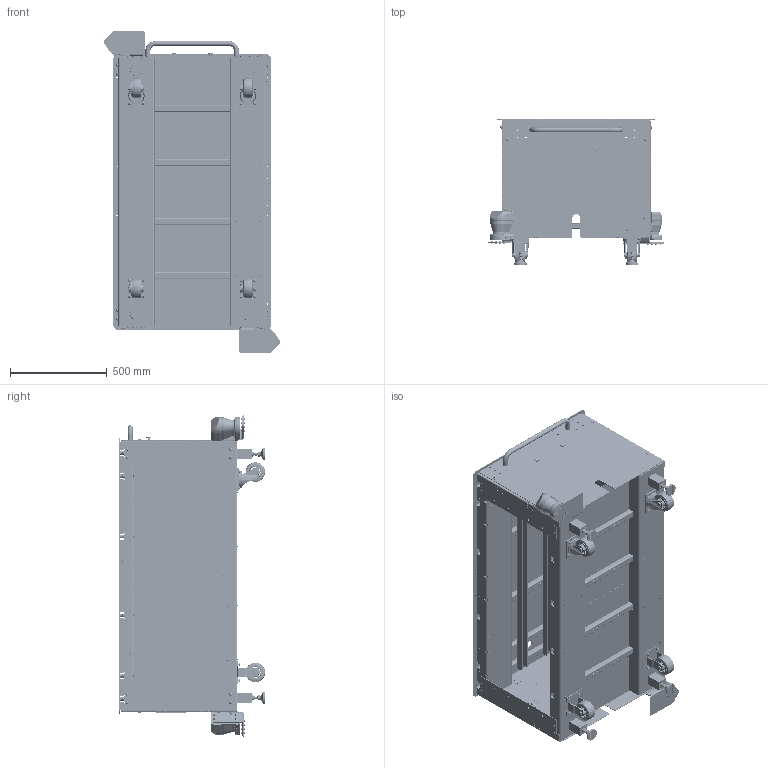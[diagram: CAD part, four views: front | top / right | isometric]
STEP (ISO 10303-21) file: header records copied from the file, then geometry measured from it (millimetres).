
FILE_DESCRIPTION (( 'STEP AP203' ), '1' );
FILE_NAME ('5011597 - SAFETY SCANNER KIT SHOWN WITH VERSACART 1300.STEP', '2024-12-11T18:08:33', ( '' ), ( '' ), 'SwSTEP 2.0', 'SolidWorks 2019', '' );
FILE_SCHEMA (( 'CONFIG_CONTROL_DESIGN' ));
Length unit declared in the file: inch
Products named in the file (48): M8 CAPTIVE NUT_99437A170; 5013671_Default Configuration; 5011677_Default Configuration; 5011678; M8x1.25 HHCS_HHCS M8-1.25x20-C; 5008506_Default Configuration; 5008042_As Machined; 5011674_Default Configuration; M6x1.0 FHCS_FHCS M6x1.0x14-C; 0.25-20 HEX NUT UNC GRD5_0.25-20 HEX NUT-C; 5011681_Default Configuration; 5009491; M5 CAPTIVE NUT_99437A155; 5011527_Default Configuration; M6x1.0 SHCS_SHCS M6-1.0 x 80; M5X0.8 SHCS_SHCS M5-0.8 x 12; 5011622; 5011520_Default Configuration; M6x1.0 SHCS_SHCS M6-1.0 x 12; 5012775_6111K191; 5003936_As Machined; M6x1.0 FHCS_FHCS M6x1.0x18-C; 5011755; 5008043_As Machined; 5012087_Default Configuration; 5013665; 5011665_02 - FOR TOP LEVEL ASSEMBLY - 5012677; M6 CAPTIVE NUT_99437A160; M6 BELLEVILLE WASHER_M6 BELLEVILLE WASHER; M8x1.25 HEX NUT CLASS 8_M8 HEX NUT; 5011621; M6x1.0 FHCS_FHCS M6x1.0x12-C; M6X1.0 BHCS_BHCS M6x1.0 X 16mm; M6x1.0 FHCS_FHCS M6x1.0x16-C; M8x1.25 FHCS_FHCS M8x1.25x16-C; 5011373_Default Configuration; M8X1.25 BHCS_BHCS M8x1.25 X 20mm; 5012677_02a - UR10 - STANDARD VISUAL INFEED - MACHINED PEDESTAL; 5011597 - SAFETY SCANNER KIT SHOWN WITH VERSACART 1300; 5011682_Default Configuration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
Assembly tree (548 placements, depth 4):
  5012087_Default Configuration
  5011597 - SAFETY SCANNER KIT SHOWN WITH VERSACART 1300
    5012677_02a - UR10 - STANDARD VISUAL INFEED - MACHINED PEDESTAL
      5011665_02 - FOR TOP LEVEL ASSEMBLY - 5012677
        5011681_Default Configuration
        5011674_Default Configuration  x2
        5011684  x2
        5011682_Default Configuration  x4
        5011678  x10
        5011755
        5011683_Default Configuration
        5013670_Default Configuration
        5011677_Default Configuration  x2
        5013665  x2
        5013671_Default Configuration
        5008506_Default Configuration  x2
        5003936_As Machined
        5008042_As Machined  x2
        5008043_As Machined  x2
        5012775_6111K191  x4
        M8X1.25 BHCS_BHCS M8x1.25 X 20mm  x40
        M8 BELLEVILLE WASHER_95221A111  x48
        M8 CAPTIVE NUT_99437A170  x38
        M6x1.0 FHCS_FHCS M6x1.0x12-C  x21
        M6x1.0 FHCS_FHCS M6x1.0x16-C  x51
        M8x1.25 HEX NUT CLASS 8_M8 HEX NUT  x8
        M4 CAPTIVE NUT_99437A140  x12
        M6 CAPTIVE NUT_99437A160  x52
        M6x1.0 SHCS_SHCS M6-1.0 x 12  x42
        M6 BELLEVILLE WASHER_M6 BELLEVILLE WASHER  x42
        M6x1.0 SHCS_SHCS M6-1.0 x 80  x16
        M6x1.0 FHCS_FHCS M6x1.0x18-C  x4
        M8x1.25 FHCS_FHCS M8x1.25x16-C  x8
        0.25-20 HEX NUT UNC GRD5_0.25-20 HEX NUT-C  x2
        M6x1.0 FHCS_FHCS M6x1.0x14-C  x4
        M6X1.0 BHCS_BHCS M6x1.0 X 16mm  x4
        5011621  x20
        5011622  x40
        5011373_Default Configuration  x4
        5012102  x8
    5011527_Default Configuration
      5011511_Default Configuration
      5009491
      5011520_Default Configuration
      M8 BELLEVILLE WASHER_95221A111  x2
      M8x1.25 HHCS_HHCS M8-1.25x20-C  x2
      M8 CAPTIVE NUT_99437A170  x2
      M5X0.8 SHCS_SHCS M5-0.8 x 12  x8
      M5 CAPTIVE NUT_99437A155  x4
    5011527_Default Configuration
      5011511_Default Configuration
      5009491
      5011520_Default Configuration
      M8 BELLEVILLE WASHER_95221A111  x2
      M8x1.25 HHCS_HHCS M8-1.25x20-C  x2
      M8 CAPTIVE NUT_99437A170  x2
      M5X0.8 SHCS_SHCS M5-0.8 x 12  x8
      M5 CAPTIVE NUT_99437A155  x4
Bounding box: 908.16 x 754.03 x 1658.11 mm (x, y, z)
Volume: 28560161.6 mm3; surface area: 15125629.5 mm2
Topology: 562 solids, 562 shells, 37496 faces, 102484 edges, 66234 vertices
Faces by surface type: plane 21052, cylinder 11400, cone 4364, bspline 320, torus 256, sphere 104
Entity records: 169705 total; most frequent: CARTESIAN_POINT 46745, ORIENTED_EDGE 22084, DIRECTION 21483, EDGE_CURVE 11042, AXIS2_PLACEMENT_3D 7632, VERTEX_POINT 7192, LINE 6219, VECTOR 6219
